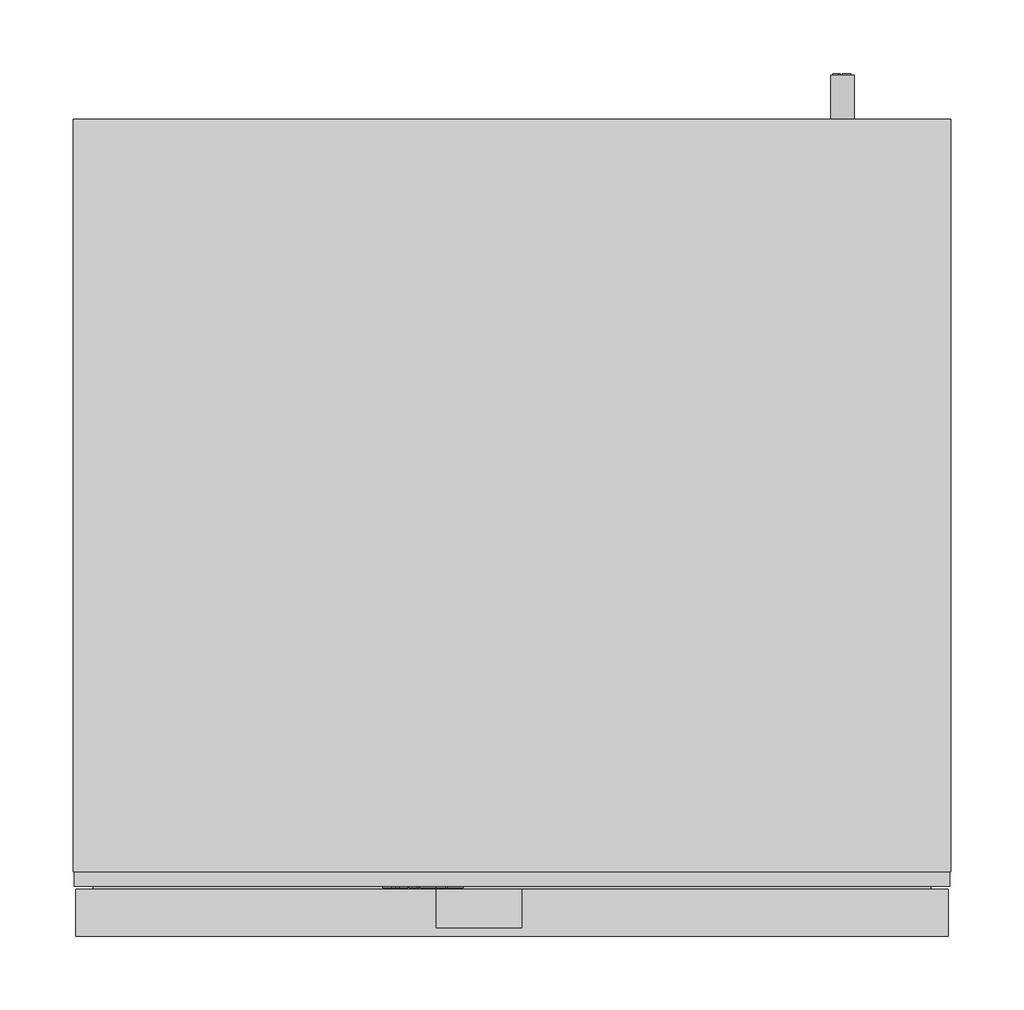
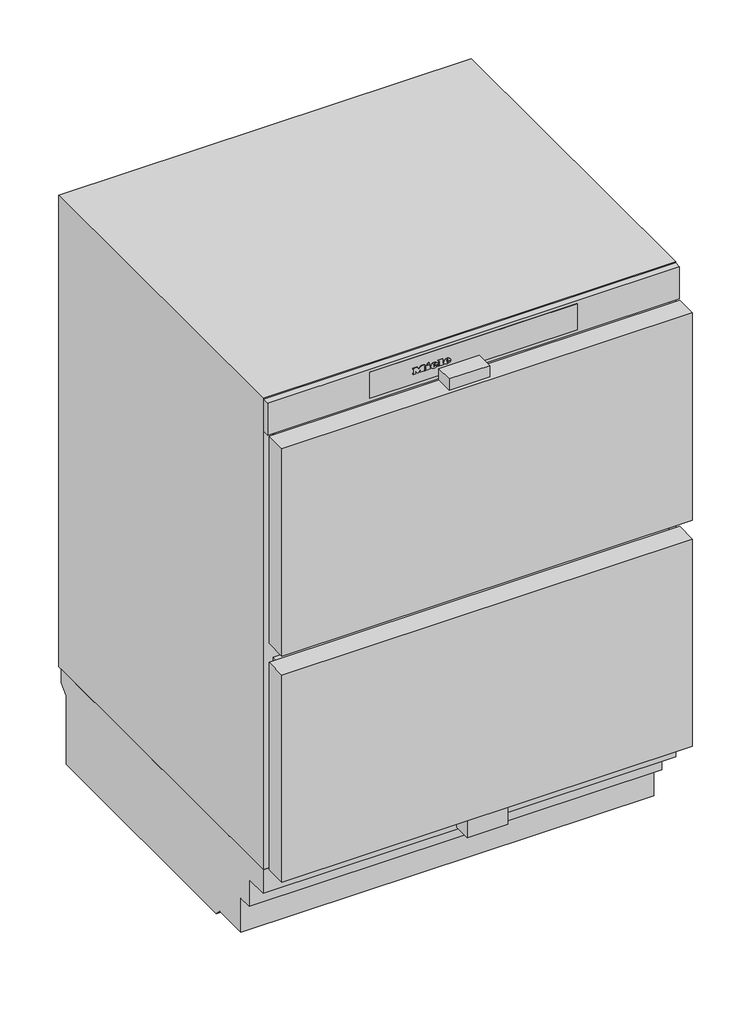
# Not in any storey: 1 proxy.
"""IFC4 building model written with IfcOpenShell, lengths in millimetres."""

import ifcopenshell
import ifcopenshell.guid

model = None  # the IFC model being written
_history = None  # IfcOwnerHistory: only IFC2X3 demands one
_inside = {}  # id of a spatial element -> (the spatial element, [elements in it])
_under = {}  # id of a project, library or spatial element -> (it, [spatial elements below it])
_declared = {}  # id of a project -> (the project, [libraries it declares])
_typed = {}  # id of a type object -> (the type object, [elements of that type])
_made_of = {}  # id of a material, layer set ... -> (it, [elements and type objects made of it])


def new_model(schema):
    """Start an empty IFC model of exactly this schema.

    Asked for "IFC4X3", IfcOpenShell would pick the latest addendum, in which some entities
    have other attributes; the version numbers below select the first issue.
    IFC2X3 requires an IfcOwnerHistory on every rooted entity: one is made here for all.
    """
    global model, _history
    if schema == "IFC4X3":
        model = ifcopenshell.file(schema_version=(4, 3, 0, 0))
    else:
        model = ifcopenshell.file(schema=schema)
    _inside.clear()
    _under.clear()
    _declared.clear()
    _typed.clear()
    _made_of.clear()
    _history = None
    if model.schema == "IFC2X3":
        org = make("IfcOrganization", Name="unknown")
        user = make(
            "IfcPersonAndOrganization",
            ThePerson=make("IfcPerson", FamilyName="unknown"),
            TheOrganization=org,
        )
        app = make(
            "IfcApplication",
            ApplicationDeveloper=org,
            Version="unknown",
            ApplicationFullName="unknown",
            ApplicationIdentifier="unknown",
        )
        _history = make(
            "IfcOwnerHistory",
            OwningUser=user,
            OwningApplication=app,
            ChangeAction="ADDED",
            CreationDate=0,
        )
    return model


def make(cls, **values):
    """One entity of the class cls with the attributes given. An attribute that is None is left unset."""
    return model.create_entity(
        cls, **{name: value for name, value in values.items() if value is not None}
    )


def rooted(cls, **values):
    """An entity with a GlobalId (a new one), such as an element, a storey or a relation."""
    return make(cls, GlobalId=ifcopenshell.guid.new(), OwnerHistory=_history, **values)


def si_unit(unit_type, name, prefix=None):
    """IfcSIUnit, for example si_unit("LENGTHUNIT", "METRE", prefix="MILLI")."""
    return make("IfcSIUnit", UnitType=unit_type, Prefix=prefix, Name=name)


def assignment(units):
    """IfcUnitAssignment: the units of a project."""
    return None if units is None else make("IfcUnitAssignment", Units=units)


def point(xyz):
    """IfcCartesianPoint."""
    return None if xyz is None else make("IfcCartesianPoint", Coordinates=xyz)


def direction(xyz):
    """IfcDirection."""
    return None if xyz is None else make("IfcDirection", DirectionRatios=xyz)


def frame(location, z_axis=None, x_axis=None):
    """IfcAxis2Placement3D, a coordinate frame: its origin and axes. An axis left out is left unset."""
    return make(
        "IfcAxis2Placement3D",
        Location=point(location),
        Axis=direction(z_axis),
        RefDirection=direction(x_axis),
    )


def frame_2d(location, x_axis=None):
    """IfcAxis2Placement2D, a coordinate frame in the plane: its origin and x axis."""
    return make(
        "IfcAxis2Placement2D", Location=point(location), RefDirection=direction(x_axis)
    )


def origin():
    """The frame at (0, 0, 0) with its axes left unset."""
    return frame((0.0, 0.0, 0.0))


def origin_with_axes():
    """The frame at (0, 0, 0) with the z axis (0, 0, 1) and the x axis (1, 0, 0) written out."""
    return frame((0.0, 0.0, 0.0), z_axis=(0.0, 0.0, 1.0), x_axis=(1.0, 0.0, 0.0))


def place(relative_to, where):
    """IfcLocalPlacement: puts the frame where relative to a parent placement (None: the world)."""
    return make(
        "IfcLocalPlacement", PlacementRelTo=relative_to, RelativePlacement=where
    )


def context(
    kind, dimensions, precision=None, world=None, true_north=None, identifier=None
):
    """IfcGeometricRepresentationContext, for example the 3D "Model" context."""
    return make(
        "IfcGeometricRepresentationContext",
        ContextIdentifier=identifier,
        ContextType=kind,
        CoordinateSpaceDimension=dimensions,
        Precision=precision,
        WorldCoordinateSystem=world,
        TrueNorth=true_north,
    )


def project(units=None, contexts=None):
    """IfcProject with its units and contexts."""
    return rooted(
        "IfcProject",
        Name="project",
        RepresentationContexts=contexts,
        UnitsInContext=assignment(units),
    )


def spatial(cls, under=None, at=None, **own):
    """A site, building, storey or space (cls), placed at a placement, below another one or the project."""
    s = rooted(cls, ObjectPlacement=at, **own)
    if under is not None:
        _under.setdefault(under.id(), (under, []))[1].append(s)
    return s


def polyline(points):
    """IfcPolyline through the points."""
    return make("IfcPolyline", Points=[point(p) for p in points])


def circle_curve(where, radius):
    """IfcCircle in the frame where."""
    return make("IfcCircle", Position=where, Radius=radius)


def ellipse_curve(where, semi_axis1, semi_axis2):
    """IfcEllipse in the frame where."""
    return make(
        "IfcEllipse", Position=where, SemiAxis1=semi_axis1, SemiAxis2=semi_axis2
    )


def trimmed(basis, trim1, trim2, sense, master):
    """IfcTrimmedCurve: the piece of a basis curve between two trims."""
    return make(
        "IfcTrimmedCurve",
        BasisCurve=basis,
        Trim1=trim1,
        Trim2=trim2,
        SenseAgreement=sense,
        MasterRepresentation=master,
    )


def segment(curve, same_sense, transition):
    """IfcCompositeCurveSegment."""
    return make(
        "IfcCompositeCurveSegment",
        Transition=transition,
        SameSense=same_sense,
        ParentCurve=curve,
    )


def composite_curve(segments, self_intersect=None):
    """IfcCompositeCurve: segments joined end to end."""
    return make("IfcCompositeCurve", Segments=segments, SelfIntersect=self_intersect)


def outline(outer, holes=None, kind="AREA"):
    """IfcArbitraryClosedProfileDef: a profile drawn as a closed curve; with holes, ...WithVoids."""
    if holes is None:
        return make("IfcArbitraryClosedProfileDef", ProfileType=kind, OuterCurve=outer)
    return make(
        "IfcArbitraryProfileDefWithVoids",
        ProfileType=kind,
        OuterCurve=outer,
        InnerCurves=holes,
    )


def extrude(swept, where, along, depth):
    """IfcExtrudedAreaSolid: the profile swept, set in the frame where, extruded along a direction by depth."""
    return make(
        "IfcExtrudedAreaSolid",
        SweptArea=swept,
        Position=where,
        ExtrudedDirection=direction(along),
        Depth=depth,
    )


def faces_of(points, faces, orient=None, outer=None):
    """IfcFace entities. A face is a list of loops; a loop is a list of indices into points, from 0.

    orient and outer hold one flag for each loop. By default every Orientation is true, the
    first loop of a face is its IfcFaceOuterBound and the others are IfcFaceBound.
    """
    made = []
    for i, loops in enumerate(faces):
        bounds = []
        for j, loop in enumerate(loops):
            is_outer = j == 0 if outer is None else outer[i][j]
            bounds.append(
                make(
                    "IfcFaceOuterBound" if is_outer else "IfcFaceBound",
                    Bound=make("IfcPolyLoop", Polygon=[points[k] for k in loop]),
                    Orientation=True if orient is None else orient[i][j],
                )
            )
        made.append(make("IfcFace", Bounds=bounds))
    return made


def faceted_brep(points, faces, orient=None, outer=None, voids=None):
    """IfcFacetedBrep: a solid bounded by flat faces; with voids (closed shells), ...WithVoids."""
    shared = [point(p) for p in points]
    hull = make("IfcClosedShell", CfsFaces=faces_of(shared, faces, orient, outer))
    if voids is None:
        return make("IfcFacetedBrep", Outer=hull)
    return make(
        "IfcFacetedBrepWithVoids",
        Outer=hull,
        Voids=[
            make(cls, CfsFaces=faces_of(shared, fs, o, b)) for cls, fs, o, b in voids
        ],
    )


def shape(context_of_items, identifier, shape_type, items):
    """IfcShapeRepresentation: the items that make up one representation, for example the "Body"."""
    return make(
        "IfcShapeRepresentation",
        ContextOfItems=context_of_items,
        RepresentationIdentifier=identifier,
        RepresentationType=shape_type,
        Items=items,
    )


def source(mapping_origin, context_of_items, identifier, shape_type, items):
    """IfcRepresentationMap: a shape defined once, which mapped items show again and again."""
    return make(
        "IfcRepresentationMap",
        MappingOrigin=mapping_origin,
        MappedRepresentation=shape(context_of_items, identifier, shape_type, items),
    )


def transform(
    local_origin,
    x_axis=None,
    y_axis=None,
    z_axis=None,
    scale=None,
    scale2=None,
    scale3=None,
    uniform=True,
):
    """IfcCartesianTransformationOperator3D, or its non-uniform kind. x_axis, y_axis, z_axis: its Axis1, 2, 3."""
    if uniform:
        return make(
            "IfcCartesianTransformationOperator3D",
            Axis1=direction(x_axis),
            Axis2=direction(y_axis),
            LocalOrigin=point(local_origin),
            Scale=scale,
            Axis3=direction(z_axis),
        )
    return make(
        "IfcCartesianTransformationOperator3DnonUniform",
        Axis1=direction(x_axis),
        Axis2=direction(y_axis),
        LocalOrigin=point(local_origin),
        Scale=scale,
        Axis3=direction(z_axis),
        Scale2=scale2,
        Scale3=scale3,
    )


def mapped(mapping_source, mapping_target):
    """IfcMappedItem: shows the shape of a source again, moved by a transform."""
    return make(
        "IfcMappedItem", MappingSource=mapping_source, MappingTarget=mapping_target
    )


def made_of(thing, what):
    """Note that an element or type object is made of a material, layer set ...; save() writes the relation."""
    if what is not None:
        _made_of.setdefault(what.id(), (what, []))[1].append(thing)
    return thing


def element(
    cls,
    number,
    at=None,
    inside=None,
    cuts=None,
    type_object=None,
    material=None,
    context=None,
    identifier="Body",
    shape_type=None,
    held_by="IfcProductDefinitionShape",
    body=None,
    shapes=None,
    **own,
):
    """One element of the class cls, such as IfcWall. Its Tag is "e" and its number.

    at: its placement. inside: the storey or other place that contains it. cuts: it is an
    opening in that element (IfcRelVoidsElement). A single representation is given by context,
    identifier, shape_type and body (its items); several are given by shapes. held_by: the class
    of the entity that holds the representations. save() writes the other relations.
    """
    e = rooted(cls, Tag="e%d" % number, ObjectPlacement=at, **own)
    if body is not None:
        shapes = [shape(context, identifier, shape_type, body)]
    if shapes is not None:
        e.Representation = make(held_by, Representations=shapes)
    if inside is not None:
        _inside.setdefault(inside.id(), (inside, []))[1].append(e)
    if cuts is not None:
        rooted(
            "IfcRelVoidsElement", RelatingBuildingElement=cuts, RelatedOpeningElement=e
        )
    if type_object is not None:
        _typed.setdefault(type_object.id(), (type_object, []))[1].append(e)
    return made_of(e, material)


def aggregate(whole, parts):
    """IfcRelAggregates: a whole, such as a stair, and the parts it consists of."""
    return rooted("IfcRelAggregates", RelatingObject=whole, RelatedObjects=parts)


def save(model, path):
    """Write the relations noted so far, then the file.

    IfcRelAggregates (storeys below a building ...), IfcRelContainedInSpatialStructure (elements
    in a storey), IfcRelDefinesByType, IfcRelAssociatesMaterial and IfcRelDeclares: one each for
    every whole, place, type object, material and project.
    """
    for whole, parts in _under.values():
        aggregate(whole, parts)
    for where, things in _inside.values():
        rooted(
            "IfcRelContainedInSpatialStructure",
            RelatedElements=things,
            RelatingStructure=where,
        )
    for kind, things in _typed.values():
        rooted("IfcRelDefinesByType", RelatedObjects=things, RelatingType=kind)
    for what, things in _made_of.values():
        rooted("IfcRelAssociatesMaterial", RelatedObjects=things, RelatingMaterial=what)
    for by, libraries in _declared.values():
        rooted("IfcRelDeclares", RelatingContext=by, RelatedDefinitions=libraries)
    model.write(path)


def plane_surface(at):
    """IfcPlane: the flat surface through the origin of the frame at, square to its z axis."""
    return make("IfcPlane", Position=at)


def cylinder_surface(at, radius):
    """IfcCylindricalSurface: all points at the distance radius from the z axis of the frame at."""
    return make("IfcCylindricalSurface", Position=at, Radius=radius)


def revolved_surface(curve, axis_point, axis_direction):
    """IfcSurfaceOfRevolution: the curve turned about the line through axis_point along axis_direction."""
    return make(
        "IfcSurfaceOfRevolution",
        SweptCurve=make("IfcArbitraryOpenProfileDef", ProfileType="CURVE", Curve=curve),
        AxisPosition=make("IfcAxis1Placement", Location=point(axis_point), Axis=direction(axis_direction)),
    )


def extruded_surface(curve, direction_of_extrusion, depth):
    """IfcSurfaceOfLinearExtrusion: the curve pushed along a direction by depth."""
    return make(
        "IfcSurfaceOfLinearExtrusion",
        SweptCurve=make("IfcArbitraryOpenProfileDef", ProfileType="CURVE", Curve=curve),
        ExtrudedDirection=direction(direction_of_extrusion),
        Depth=depth,
    )


def advanced_brep(points, edges, surfaces, faces):
    """IfcAdvancedBrep: a solid bounded by faces that lie on surfaces and meet in shared edges.

    An edge is (start, end): straight between two places in points (the first is 0);
    or (start, end, curve); or (start, end, curve, False) where it runs against its curve.
    A face is (place in surfaces, loops), or (place, loops, False) where it looks against
    its surface's normal. A loop lists edges by number (the first is 1), with a minus sign
    where the edge is run from its end to its start. The first loop is the outer one.
    """
    corners = [point(p) for p in points]
    vertices = [make("IfcVertexPoint", VertexGeometry=c) for c in corners]
    made = []
    for start, end, *more in edges:
        made.append(
            make(
                "IfcEdgeCurve",
                EdgeStart=vertices[start],
                EdgeEnd=vertices[end],
                EdgeGeometry=more[0] if more else make("IfcPolyline", Points=[corners[start], corners[end]]),
                SameSense=more[1] if len(more) > 1 else True,
            )
        )
    hull = []
    for where, loops, *sense in faces:
        bounds = []
        for j, loop in enumerate(loops):
            ring = [make("IfcOrientedEdge", EdgeElement=made[abs(k) - 1], Orientation=k > 0) for k in loop]
            bounds.append(
                make(
                    "IfcFaceOuterBound" if j == 0 else "IfcFaceBound",
                    Bound=make("IfcEdgeLoop", EdgeList=ring),
                    Orientation=True,
                )
            )
        hull.append(make("IfcAdvancedFace", Bounds=bounds, FaceSurface=surfaces[where], SameSense=sense[0] if sense else True))
    return make("IfcAdvancedBrep", Outer=make("IfcClosedShell", CfsFaces=hull))


def specialty_equipment_b4c2bd8a(model_context):
    return source(origin(), model_context, "Body", "SolidModel", [
        extrude(outline(polyline([(835.9349293, -88.017), (835.9349293, -86.928), (829.9139293, -86.928), (829.9139293, -88.017), (828.4019293, -88.017), (828.4019293, -84.057), (829.9139293, -84.057), (829.9139293, -85.137), (833.7360541, -85.137), (828.4019293, -81.114), (833.8421516, -77.073), (829.9139293, -77.073), (829.9139293, -78.18), (828.4019293, -78.18), (828.4019293, -70.998), (829.9139293, -70.998), (829.9139293, -72.141), (835.9349293, -72.141), (835.9349293, -70.998), (837.4019293, -70.998), (837.4019293, -76.479), (834.0269293, -79.107), (837.4019293, -81.744), (837.4019293, -88.017), (835.9349293, -88.017)])), frame((0.0, 33.1, 0.0), z_axis=(0.0, 1.0, 0.0), x_axis=(0.0, 0.0, 1.0)), (0.0, 0.0, 1.0), 1.0),
        extrude(outline(polyline([(835.9349293, -51.495), (835.9349293, -50.415), (829.9139293, -50.415), (829.9139293, -51.495), (828.4019293, -51.495), (828.4019293, -44.196), (829.9139293, -44.196), (829.9139293, -45.303), (837.4019293, -45.303), (837.4019293, -51.495), (835.9349293, -51.495)])), frame((0.0, 33.1, 0.0), z_axis=(0.0, 1.0, 0.0), x_axis=(0.0, 0.0, 1.0)), (0.0, 0.0, 1.0), 1.0),
        extrude(outline(polyline([(836.8709293, -67.857), (835.4129293, -67.173), (836.8349293, -64.122), (838.2929293, -64.797), (836.8709293, -67.857)])), frame((0.0, 33.1, 0.0), z_axis=(0.0, 1.0, 0.0), x_axis=(0.0, 0.0, 1.0)), (0.0, 0.0, 1.0), 1.0),
        extrude(outline(polyline([(835.2149293, -70.08), (833.6039293, -70.08), (833.6039293, -69.009), (829.9139293, -69.009), (829.9139293, -70.08), (828.4019293, -70.08), (828.4019293, -62.979), (829.9139293, -62.979), (829.9139293, -64.023), (835.2149293, -64.023), (835.2149293, -70.08)])), frame((0.0, 33.1, 0.0), z_axis=(0.0, 1.0, 0.0), x_axis=(0.0, 0.0, 1.0)), (0.0, 0.0, 1.0), 1.0),
        advanced_brep(
        [(-58.02, 33.1, 830.5349293), (-58.02, 33.1, 831.4439293), (-51.999, 33.1, 831.4439293), (-62.475, 33.1, 831.4439293), (-60.0, 33.1, 828.4019293), (-52.152, 33.1, 830.5349293), (-54.87, 33.1, 830.5349293), (-57.012, 33.1, 829.5269293), (-58.02, 33.1, 832.5959293), (-58.02, 33.1, 833.5769293), (-56.481, 33.1, 833.5769293), (-56.481, 33.1, 832.5959293), (-58.02, 34.1, 830.5349293), (-57.012, 34.1, 829.5269293), (-54.87, 34.1, 830.5349293), (-52.152, 34.1, 830.5349293), (-60.0, 34.1, 828.4019293), (-62.475, 34.1, 831.4439293), (-51.999, 34.1, 831.4439293), (-58.02, 34.1, 831.4439293), (-58.02, 34.1, 832.5959293), (-56.481, 34.1, 832.5959293), (-56.481, 34.1, 833.5769293), (-58.02, 34.1, 833.5769293)],
        [
            (0, 1),
            (1, 2),
            (2, 3, ellipse_curve(frame((-57.237, 33.1, 831.4439293), z_axis=(0.0, -1.0, 0.0), x_axis=(-1.0, 0.0, 0.0)), 5.238, 4.329)),
            (3, 4, circle_curve(frame((-58.9919509, 33.1, 831.7499293), z_axis=(0.0, -1.0, 0.0), x_axis=(0.0, 0.0, -1.0)), 3.4964649)),
            (4, 5, circle_curve(frame((-57.3418572, 33.1, 834.1259293), z_axis=(0.0, -1.0, 0.0), x_axis=(0.0, 0.0, -1.0)), 6.3110933)),
            (5, 6),
            (6, 7, circle_curve(frame((-56.5720588, 33.1, 831.3719293), z_axis=(0.0, 1.0, 0.0), x_axis=(0.0, 0.0, -1.0)), 1.896727)),
            (7, 0, circle_curve(frame((-57.012, 33.1, 830.5349293), z_axis=(0.0, 1.0, 0.0), x_axis=(0.0, 0.0, -1.0)), 1.008)),
            (8, 9),
            (9, 10, circle_curve(frame((-57.2505, 33.1, 833.5769293), z_axis=(0.0, 1.0, 0.0), x_axis=(0.0, 0.0, -1.0)), 0.7695)),
            (10, 11),
            (11, 8),
            (12, 13, circle_curve(frame((-57.012, 34.1, 830.5349293), z_axis=(0.0, -1.0, 0.0), x_axis=(0.0, 0.0, -1.0)), 1.008)),
            (13, 14, circle_curve(frame((-56.5720588, 34.1, 831.3719293), z_axis=(0.0, -1.0, 0.0), x_axis=(0.0, 0.0, -1.0)), 1.896727)),
            (14, 15),
            (15, 16, circle_curve(frame((-57.3418572, 34.1, 834.1259293), z_axis=(0.0, 1.0, 0.0), x_axis=(0.0, 0.0, -1.0)), 6.3110933)),
            (16, 17, circle_curve(frame((-58.9919509, 34.1, 831.7499293), z_axis=(0.0, 1.0, 0.0), x_axis=(0.0, 0.0, -1.0)), 3.4964649)),
            (17, 18, ellipse_curve(frame((-57.237, 34.1, 831.4439293), z_axis=(0.0, 1.0, 0.0), x_axis=(-1.0, 0.0, 0.0)), 5.238, 4.329)),
            (18, 19),
            (19, 12),
            (20, 21),
            (21, 22),
            (22, 23, circle_curve(frame((-57.2505, 34.1, 833.5769293), z_axis=(0.0, -1.0, 0.0), x_axis=(0.0, 0.0, -1.0)), 0.7695)),
            (23, 20),
            (0, 12),
            (19, 1),
            (18, 2),
            (5, 15),
            (14, 6),
            (17, 3),
            (13, 7),
            (16, 4),
            (8, 20),
            (23, 9),
            (22, 10),
            (21, 11),
        ],
        [
            plane_surface(frame((-58.02, 33.1, 831.4439293), z_axis=(0.0, -1.0, 0.0), x_axis=(0.0, 0.0, 1.0))),
            plane_surface(frame((-58.02, 34.1, 831.4439293), z_axis=(0.0, 1.0, 0.0), x_axis=(0.0, 0.0, -1.0))),
            plane_surface(frame((-58.02, 33.1, 830.5349293), z_axis=(1.0, 0.0, 0.0), x_axis=(0.0, 1.0, 0.0))),
            plane_surface(frame((-58.02, 33.1, 831.4439293), z_axis=(0.0, 0.0, -1.0), x_axis=(0.0, 1.0, 0.0))),
            plane_surface(frame((-52.152, 33.1, 830.5349293), z_axis=(0.0, 0.0, 1.0), x_axis=(0.0, 1.0, 0.0))),
            extruded_surface(trimmed(ellipse_curve(frame((-57.237, 35.1, 831.4439293), z_axis=(0.0, -1.0, 0.0), x_axis=(-1.0, 0.0, 0.0)), 5.238, 4.329), [point((-51.999, 35.1, 831.4439293))], [point((-62.475, 35.1, 831.4439293))], True, "CARTESIAN"), (0.0, -1.0, 0.0), 1.0),
            revolved_surface(polyline([(-56.5720588, 34.1, 829.4752023), (-56.5720588, 33.1, 829.4752023)]), (-56.5720588, 34.1, 831.3719293), (0.0, 1.0, 0.0)),
            revolved_surface(polyline([(-57.012, 34.1, 829.5269293), (-57.012, 33.1, 829.5269293)]), (-57.012, 34.1, 830.5349293), (0.0, 1.0, 0.0)),
            cylinder_surface(frame((-58.9919509, 34.1, 831.7499293), z_axis=(0.0, -1.0, 0.0), x_axis=(0.0, 0.0, -1.0)), 3.4964649),
            cylinder_surface(frame((-57.3418572, 34.1, 834.1259293), z_axis=(0.0, -1.0, 0.0), x_axis=(0.0, 0.0, -1.0)), 6.3110933),
            plane_surface(frame((-58.02, 33.1, 832.5959293), z_axis=(1.0, 0.0, 0.0), x_axis=(0.0, 1.0, 0.0))),
            revolved_surface(polyline([(-57.2505, 34.1, 832.8074293), (-57.2505, 33.1, 832.8074293)]), (-57.2505, 34.1, 833.5769293), (0.0, 1.0, 0.0)),
            plane_surface(frame((-56.481, 33.1, 833.5769293), z_axis=(-1.0, 0.0, 0.0), x_axis=(0.0, 1.0, 0.0))),
            plane_surface(frame((-56.481, 33.1, 832.5959293), z_axis=(0.0, 0.0, 1.0), x_axis=(0.0, 1.0, 0.0))),
        ],
        [
            (0, [[1, 2, 3, 4, 5, 6, 7, 8], [9, 10, 11, 12]]),
            (1, [[13, 14, 15, 16, 17, 18, 19, 20], [21, 22, 23, 24]]),
            (2, [[-1, 25, -20, 26]]),
            (3, [[-2, -26, -19, 27]]),
            (4, [[-6, 28, -15, 29]]),
            (5, [[-3, -27, -18, 30]]),
            (6, [[-7, -29, -14, 31]]),
            (7, [[-8, -31, -13, -25]]),
            (8, [[-4, -30, -17, 32]]),
            (9, [[-5, -32, -16, -28]]),
            (10, [[-9, 33, -24, 34]]),
            (11, [[-10, -34, -23, 35]]),
            (12, [[-11, -35, -22, 36]]),
            (13, [[-12, -36, -21, -33]]),
        ],
    ),
        advanced_brep(
        [(-39.237, 33.1, 830.5349293), (-39.237, 33.1, 831.4439293), (-33.216, 33.1, 831.4439293), (-43.692, 33.1, 831.4439293), (-41.217, 33.1, 828.4019293), (-33.369, 33.1, 830.5349293), (-36.087, 33.1, 830.5349293), (-38.229, 33.1, 829.5269293), (-39.237, 33.1, 832.5959293), (-39.237, 33.1, 833.5769293), (-37.698, 33.1, 833.5769293), (-37.698, 33.1, 832.5959293), (-39.237, 34.1, 830.5349293), (-38.229, 34.1, 829.5269293), (-36.087, 34.1, 830.5349293), (-33.369, 34.1, 830.5349293), (-41.217, 34.1, 828.4019293), (-43.692, 34.1, 831.4439293), (-33.216, 34.1, 831.4439293), (-39.237, 34.1, 831.4439293), (-39.237, 34.1, 832.5959293), (-37.698, 34.1, 832.5959293), (-37.698, 34.1, 833.5769293), (-39.237, 34.1, 833.5769293)],
        [
            (0, 1),
            (1, 2),
            (2, 3, ellipse_curve(frame((-38.454, 33.1, 831.4439293), z_axis=(0.0, -1.0, 0.0), x_axis=(-1.0, 0.0, 0.0)), 5.238, 4.329)),
            (3, 4, circle_curve(frame((-40.2089509, 33.1, 831.7499293), z_axis=(0.0, -1.0, 0.0), x_axis=(0.0, 0.0, -1.0)), 3.4964649)),
            (4, 5, circle_curve(frame((-38.5588572, 33.1, 834.1259293), z_axis=(0.0, -1.0, 0.0), x_axis=(0.0, 0.0, -1.0)), 6.3110933)),
            (5, 6),
            (6, 7, circle_curve(frame((-37.7890588, 33.1, 831.3719293), z_axis=(0.0, 1.0, 0.0), x_axis=(0.0, 0.0, -1.0)), 1.896727)),
            (7, 0, circle_curve(frame((-38.229, 33.1, 830.5349293), z_axis=(0.0, 1.0, 0.0), x_axis=(0.0, 0.0, -1.0)), 1.008)),
            (8, 9),
            (9, 10, circle_curve(frame((-38.4675, 33.1, 833.5769293), z_axis=(0.0, 1.0, 0.0), x_axis=(0.0, 0.0, -1.0)), 0.7695)),
            (10, 11),
            (11, 8),
            (12, 13, circle_curve(frame((-38.229, 34.1, 830.5349293), z_axis=(0.0, -1.0, 0.0), x_axis=(0.0, 0.0, -1.0)), 1.008)),
            (13, 14, circle_curve(frame((-37.7890588, 34.1, 831.3719293), z_axis=(0.0, -1.0, 0.0), x_axis=(0.0, 0.0, -1.0)), 1.896727)),
            (14, 15),
            (15, 16, circle_curve(frame((-38.5588572, 34.1, 834.1259293), z_axis=(0.0, 1.0, 0.0), x_axis=(0.0, 0.0, -1.0)), 6.3110933)),
            (16, 17, circle_curve(frame((-40.2089509, 34.1, 831.7499293), z_axis=(0.0, 1.0, 0.0), x_axis=(0.0, 0.0, -1.0)), 3.4964649)),
            (17, 18, ellipse_curve(frame((-38.454, 34.1, 831.4439293), z_axis=(0.0, 1.0, 0.0), x_axis=(-1.0, 0.0, 0.0)), 5.238, 4.329)),
            (18, 19),
            (19, 12),
            (20, 21),
            (21, 22),
            (22, 23, circle_curve(frame((-38.4675, 34.1, 833.5769293), z_axis=(0.0, -1.0, 0.0), x_axis=(0.0, 0.0, -1.0)), 0.7695)),
            (23, 20),
            (0, 12),
            (19, 1),
            (18, 2),
            (5, 15),
            (14, 6),
            (17, 3),
            (13, 7),
            (16, 4),
            (8, 20),
            (23, 9),
            (22, 10),
            (21, 11),
        ],
        [
            plane_surface(frame((-39.237, 33.1, 831.4439293), z_axis=(0.0, -1.0, 0.0), x_axis=(0.0, 0.0, 1.0))),
            plane_surface(frame((-39.237, 34.1, 831.4439293), z_axis=(0.0, 1.0, 0.0), x_axis=(0.0, 0.0, -1.0))),
            plane_surface(frame((-39.237, 33.1, 830.5349293), z_axis=(1.0, 0.0, 0.0), x_axis=(0.0, 1.0, 0.0))),
            plane_surface(frame((-39.237, 33.1, 831.4439293), z_axis=(0.0, 0.0, -1.0), x_axis=(0.0, 1.0, 0.0))),
            plane_surface(frame((-33.369, 33.1, 830.5349293), z_axis=(0.0, 0.0, 1.0), x_axis=(0.0, 1.0, 0.0))),
            extruded_surface(trimmed(ellipse_curve(frame((-38.454, 35.1, 831.4439293), z_axis=(0.0, -1.0, 0.0), x_axis=(-1.0, 0.0, 0.0)), 5.238, 4.329), [point((-33.216, 35.1, 831.4439293))], [point((-43.692, 35.1, 831.4439293))], True, "CARTESIAN"), (0.0, -1.0, 0.0), 1.0),
            revolved_surface(polyline([(-37.7890588, 34.1, 829.4752023), (-37.7890588, 33.1, 829.4752023)]), (-37.7890588, 34.1, 831.3719293), (0.0, 1.0, 0.0)),
            revolved_surface(polyline([(-38.229, 34.1, 829.5269293), (-38.229, 33.1, 829.5269293)]), (-38.229, 34.1, 830.5349293), (0.0, 1.0, 0.0)),
            cylinder_surface(frame((-40.2089509, 34.1, 831.7499293), z_axis=(0.0, -1.0, 0.0), x_axis=(0.0, 0.0, -1.0)), 3.4964649),
            cylinder_surface(frame((-38.5588572, 34.1, 834.1259293), z_axis=(0.0, -1.0, 0.0), x_axis=(0.0, 0.0, -1.0)), 6.3110933),
            plane_surface(frame((-39.237, 33.1, 832.5959293), z_axis=(1.0, 0.0, 0.0), x_axis=(0.0, 1.0, 0.0))),
            revolved_surface(polyline([(-38.4675, 34.1, 832.8074293), (-38.4675, 33.1, 832.8074293)]), (-38.4675, 34.1, 833.5769293), (0.0, 1.0, 0.0)),
            plane_surface(frame((-37.698, 33.1, 833.5769293), z_axis=(-1.0, 0.0, 0.0), x_axis=(0.0, 1.0, 0.0))),
            plane_surface(frame((-37.698, 33.1, 832.5959293), z_axis=(0.0, 0.0, 1.0), x_axis=(0.0, 1.0, 0.0))),
        ],
        [
            (0, [[1, 2, 3, 4, 5, 6, 7, 8], [9, 10, 11, 12]]),
            (1, [[13, 14, 15, 16, 17, 18, 19, 20], [21, 22, 23, 24]]),
            (2, [[-1, 25, -20, 26]]),
            (3, [[-2, -26, -19, 27]]),
            (4, [[-6, 28, -15, 29]]),
            (5, [[-3, -27, -18, 30]]),
            (6, [[-7, -29, -14, 31]]),
            (7, [[-8, -31, -13, -25]]),
            (8, [[-4, -30, -17, 32]]),
            (9, [[-5, -32, -16, -28]]),
            (10, [[-9, 33, -24, 34]]),
            (11, [[-10, -34, -23, 35]]),
            (12, [[-11, -35, -22, 36]]),
            (13, [[-12, -36, -21, -33]]),
        ],
    ),
        extrude(outline(polyline([(150.0048218, 34.0937347), (-150.0048218, 34.0937347), (-150.0048218, 44.0), (150.0048218, 44.0), (150.0048218, 34.0937347)])), frame((0.0, 0.0, 813.2139282), z_axis=(0.0, 0.0, 1.0), x_axis=(1.0, 0.0, 0.0)), (0.0, 0.0, 1.0), 39.9850464),
        extrude(outline(polyline([(857.6989746, 298.0), (857.6989746, -298.0), (808.7051238, -298.0), (808.7051238, 298.0), (857.6989746, 298.0)]), holes=[polyline([(853.1989746, -150.0048218), (853.1989746, 150.0048218), (813.2139282, 150.0048218), (813.2139282, -150.0048218), (853.1989746, -150.0048218)])]), frame((0.0, 34.0937347, 0.0), z_axis=(0.0, 1.0, 0.0), x_axis=(0.0, 0.0, 1.0)), (0.0, 0.0, 1.0), 9.9062653),
        faceted_brep([(-298.5, 550.1, 137.8999939), (-298.5, 550.1, 117.6051112), (-298.5, 537.6, 105.1051112), (-298.5, 537.6, 0.0), (-298.5, 161.2567793, 0.0), (-298.5, 152.9391747, 8.3176046), (-298.5, 100.0, 8.3176046), (-298.5, 100.0, 60.7725754), (-298.5, 79.0216446, 60.7725754), (-298.5, 79.0216446, 101.8184894), (-298.5, 44.0, 101.8184894), (-298.5, 44.0, 137.8999939), (298.5, 550.1, 137.8999939), (298.5, 44.0, 137.8999939), (298.5, 44.0, 101.8184894), (298.5, 79.0216446, 101.8184894), (298.5, 79.0216446, 60.7725754), (298.5, 100.0, 60.7725754), (298.5, 100.0, 8.3176046), (298.5, 152.9391747, 8.3176046), (298.5, 161.2567793, 0.0), (298.5, 537.6, 0.0), (298.5, 537.6, 105.1051112), (298.5, 550.1, 117.6051112), (296.7000122, 463.8596389, 0.0), (256.5957336, 463.8596389, 0.0), (256.5957336, 399.1975098, 0.0), (296.7000122, 399.1975098, 0.0), (-296.7000122, 463.8596389, 0.0), (-296.7000122, 399.1975098, 0.0), (-256.5957336, 399.1975098, 0.0), (-256.5957336, 463.8596389, 0.0), (296.7000122, 463.8596389, 8.7371401), (296.7000122, 399.1975098, 8.7371401), (256.5957336, 399.1975098, 8.7371401), (256.5957336, 463.8596389, 8.7371401), (-296.7000122, 463.8596389, 8.7371401), (-256.5957336, 463.8596389, 8.7371401), (-256.5957336, 399.1975098, 8.7371401), (-296.7000122, 399.1975098, 8.7371401)], [[[0, 1, 2, 3, 4, 5, 6, 7, 8, 9, 10, 11]], [[12, 13, 14, 15, 16, 17, 18, 19, 20, 21, 22, 23]], [[0, 11, 13, 12]], [[11, 10, 14, 13]], [[10, 9, 15, 14]], [[9, 8, 16, 15]], [[8, 7, 17, 16]], [[7, 6, 18, 17]], [[6, 5, 19, 18]], [[5, 4, 20, 19]], [[4, 3, 21, 20], [24, 25, 26, 27], [28, 29, 30, 31]], [[3, 2, 22, 21]], [[2, 1, 23, 22]], [[1, 0, 12, 23]], [[32, 33, 34, 35]], [[36, 37, 38, 39]], [[32, 35, 25, 24]], [[35, 34, 26, 25]], [[34, 33, 27, 26]], [[33, 32, 24, 27]], [[36, 39, 29, 28]], [[39, 38, 30, 29]], [[38, 37, 31, 30]], [[37, 36, 28, 31]]]),
        faceted_brep([(298.5, 44.0, 859.0), (298.5, 44.0, 137.8999939), (298.5, 556.2, 137.8999939), (298.5, 556.2, 859.0), (-298.5, 44.0, 859.0), (-298.5, 556.2, 859.0), (-298.5, 556.2, 137.8999939), (-298.5, 44.0, 137.8999939), (263.0, 44.0, 759.0), (263.0, 44.0, 160.0), (-263.0, 44.0, 160.0), (-263.0, 44.0, 759.0), (263.0, 510.8638012, 160.0), (263.0, 510.8638012, 759.0), (-263.0, 510.8638012, 759.0), (-263.0, 510.8638012, 160.0)], [[[0, 1, 2, 3]], [[4, 5, 6, 7]], [[1, 0, 4, 7], [8, 9, 10, 11]], [[2, 1, 7, 6]], [[3, 2, 6, 5]], [[0, 3, 5, 4]], [[12, 13, 14, 15]], [[13, 12, 9, 8]], [[14, 13, 8, 11]], [[15, 14, 11, 10]], [[12, 15, 10, 9]]]),
        extrude(outline(polyline([(263.0, 510.8638012), (263.0, 339.3), (-263.0, 339.3), (-263.0, 510.8638012), (263.0, 510.8638012)])), frame((0.0, 0.0, 160.0), z_axis=(0.0, 0.0, 1.0), x_axis=(1.0, 0.0, 0.0)), (0.0, 0.0, 1.0), 61.8999939),
        extrude(outline(composite_curve([segment(trimmed(circle_curve(frame_2d((-270.8532135, 136.0)), 15.7049948), [point((-286.5582083, 136.0))], [point((-255.1482187, 136.0))], False, "CARTESIAN"), True, "CONTINUOUS"), segment(trimmed(circle_curve(frame_2d((-270.8532135, 136.0)), 15.7049948), [point((-255.1482187, 136.0))], [point((-286.5582083, 136.0))], False, "CARTESIAN"), True, "CONTINUOUS")], self_intersect=False)), origin_with_axes(), (0.0, 0.0, 1.0), 8.3176046),
        extrude(outline(composite_curve([segment(trimmed(circle_curve(frame_2d((270.8532135, 136.0)), 15.7049948), [point((286.5582083, 136.0))], [point((255.1482187, 136.0))], False, "CARTESIAN"), True, "CONTINUOUS"), segment(trimmed(circle_curve(frame_2d((270.8532135, 136.0)), 15.7049948), [point((255.1482187, 136.0))], [point((286.5582083, 136.0))], False, "CARTESIAN"), True, "CONTINUOUS")], self_intersect=False)), origin_with_axes(), (0.0, 0.0, 1.0), 8.3176046),
        extrude(outline(composite_curve([segment(trimmed(circle_curve(frame_2d((-275.822369, 437.7)), 16.0), [point((-291.822369, 437.7))], [point((-259.822369, 437.7))], False, "CARTESIAN"), True, "CONTINUOUS"), segment(trimmed(circle_curve(frame_2d((-275.822369, 437.7)), 16.0), [point((-259.822369, 437.7))], [point((-291.822369, 437.7))], False, "CARTESIAN"), True, "CONTINUOUS")], self_intersect=False)), origin_with_axes(), (0.0, 0.0, 1.0), 8.3176046),
        extrude(outline(composite_curve([segment(trimmed(circle_curve(frame_2d((275.822369, 437.7)), 16.0), [point((259.822369, 437.7))], [point((291.822369, 437.7))], False, "CARTESIAN"), True, "CONTINUOUS"), segment(trimmed(circle_curve(frame_2d((275.822369, 437.7)), 16.0), [point((291.822369, 437.7))], [point((259.822369, 437.7))], False, "CARTESIAN"), True, "CONTINUOUS")], self_intersect=False)), origin_with_axes(), (0.0, 0.0, 1.0), 8.3176046),
        extrude(outline(polyline([(263.0, 44.0), (-263.0, 44.0), (-263.0, 510.8638012), (263.0, 510.8638012), (263.0, 44.0)])), frame((0.0, 0.0, 429.4645996), z_axis=(0.0, 0.0, 1.0), x_axis=(1.0, 0.0, 0.0)), (0.0, 0.0, 1.0), 94.0),
        extrude(outline(composite_curve([segment(polyline([(-167.6368194, 33.3343317), (-174.9999695, 43.8499999), (174.9999695, 43.8499999), (167.6368194, 33.3343317)]), True, "CONTINUOUS"), segment(trimmed(circle_curve(frame_2d((166.0338376, 34.4567516)), 1.9568794), [point((167.6368194, 33.3343317))], [point((166.0114746, 32.5))], False, "CARTESIAN"), True, "CONTINUOUS"), segment(polyline([(166.0114746, 32.5), (-166.0114746, 32.5)]), True, "CONTINUOUS"), segment(trimmed(circle_curve(frame_2d((-166.0338376, 34.4567516)), 1.9568794), [point((-166.0114746, 32.5))], [point((-167.6368194, 33.3343317))], False, "CARTESIAN"), True, "CONTINUOUS")], self_intersect=False)), frame((0.0, 0.0, 466.532135), z_axis=(0.0, 0.0, 1.0), x_axis=(1.0, 0.0, 0.0)), (0.0, 0.0, 1.0), 19.8649292),
        extrude(outline(composite_curve([segment(trimmed(circle_curve(frame_2d((144.2460785, 224.8152695)), 8.0), [point((144.2460785, 216.8152695))], [point((144.2460785, 232.8152695))], False, "CARTESIAN"), True, "CONTINUOUS"), segment(trimmed(circle_curve(frame_2d((144.2460785, 224.8152695)), 8.0), [point((144.2460785, 232.8152695))], [point((144.2460785, 216.8152695))], False, "CARTESIAN"), True, "CONTINUOUS")], self_intersect=False)), frame((0.0, 556.2, 0.0), z_axis=(0.0, 1.0, 0.0), x_axis=(0.0, 0.0, 1.0)), (0.0, 0.0, 1.0), 30.0),
        extrude(outline(polyline([(140.2460785, 230.7170777), (148.2825833, 230.7170777), (148.2825833, 224.9408399), (147.2780202, 224.9408399), (147.2780202, 229.7125146), (144.8921828, 229.7125146), (144.8921828, 225.1919806), (143.8876197, 225.1919806), (143.8876197, 229.7125146), (141.2506416, 229.7125146), (141.2506416, 224.8152695), (140.2460785, 224.8152695), (140.2460785, 230.7170777)])), frame((0.0, 586.2, 0.0), z_axis=(0.0, 1.0, 0.0), x_axis=(0.0, 0.0, 1.0)), (0.0, 0.0, 1.0), 1.0),
        extrude(outline(polyline([(140.2460785, 223.3084248), (148.2825833, 223.3084248), (148.2825833, 222.3038617), (141.2506416, 222.3038617), (141.2506416, 218.2856093), (140.2460785, 218.2856093), (140.2460785, 223.3084248)])), frame((0.0, 586.2, 0.0), z_axis=(0.0, 1.0, 0.0), x_axis=(0.0, 0.0, 1.0)), (0.0, 0.0, 1.0), 1.0),
        faceted_brep([(297.0, 0.0, 808.0), (-297.0, 0.0, 808.0), (-297.0, 0.0, 491.0), (297.0, 0.0, 491.0), (-297.0, 32.0, 808.0), (297.0, 32.0, 808.0), (297.0, 32.0, 494.5), (297.0, 32.0, 491.0), (-297.0, 32.0, 491.0), (-297.0, 32.0, 494.5)], [[[0, 1, 2, 3]], [[4, 5, 6, 7, 8, 9]], [[1, 0, 5, 4]], [[1, 4, 9, 8, 2]], [[5, 0, 3, 7, 6]], [[3, 2, 8, 7]]]),
        faceted_brep([(-297.0, 0.0, 145.0), (297.0, 0.0, 145.0), (297.0, 0.0, 462.0), (-297.0, 0.0, 462.0), (297.0, 32.0, 145.0), (-297.0, 32.0, 145.0), (-297.0, 32.0, 458.5), (-297.0, 32.0, 462.0), (297.0, 32.0, 462.0), (297.0, 32.0, 458.5)], [[[0, 1, 2, 3]], [[4, 5, 6, 7, 8, 9]], [[5, 0, 3, 7, 6]], [[1, 0, 5, 4]], [[1, 4, 9, 8, 2]], [[3, 2, 8, 7]]]),
        extrude(outline(polyline([(-285.0, 44.0), (285.0, 44.0), (285.0, 32.0), (-285.0, 32.0), (-285.0, 44.0)])), frame((0.0, 0.0, 494.5), z_axis=(0.0, 0.0, 1.0), x_axis=(1.0, 0.0, 0.0)), (0.0, 0.0, 1.0), 310.0),
        extrude(outline(polyline([(285.0, 44.0), (285.0, 32.0), (-285.0, 32.0), (-285.0, 44.0), (285.0, 44.0)])), frame((0.0, 0.0, 148.5030441), z_axis=(0.0, 0.0, 1.0), x_axis=(1.0, 0.0, 0.0)), (0.0, 0.0, 1.0), 309.9969559),
        extrude(outline(polyline([(6.7999997, 5.75), (-51.7000008, 5.75), (-51.7000008, 32.0), (6.7999997, 32.0), (6.7999997, 5.75)])), frame((0.0, 0.0, 808.0), z_axis=(0.0, 0.0, 1.0), x_axis=(1.0, 0.0, 0.0)), (0.0, 0.0, 1.0), 17.7000122),
        extrude(outline(polyline([(32.7999992, 5.75), (-25.7000008, 5.75), (-25.7000008, 32.0), (32.7999992, 32.0), (32.7999992, 5.75)])), frame((0.0, 0.0, 114.8000031), z_axis=(0.0, 0.0, 1.0), x_axis=(1.0, 0.0, 0.0)), (0.0, 0.0, 1.0), 30.1999969),
    ])


model = new_model("IFC4")

# Units and contexts
model_context = context("Model", 3, world=origin())
ifc_project = project(units=[si_unit("LENGTHUNIT", "METRE", prefix="MILLI")], contexts=[model_context])

# Site, building
site = spatial("IfcSite", under=ifc_project)
building = spatial("IfcBuilding", under=site)

# Proxy
placement = place(None, origin())
specialty_equipment_shape = specialty_equipment_b4c2bd8a(model_context)
element("IfcBuildingElementProxy", 1, Name="12930520_USA_KU7175D : 36717510_USA_12930520_KU7175D", ObjectType="12930520_USA_KU7175D : 36717510_USA_12930520_KU7175D", at=placement, inside=building, context=model_context, shape_type="MappedRepresentation", body=[
    mapped(specialty_equipment_shape, transform((0.0, 0.0, 0.0), x_axis=(1.0, 0.0, 0.0), y_axis=(0.0, 1.0, 0.0), z_axis=(0.0, 0.0, 1.0))),
])

save(model, "model.ifc")
